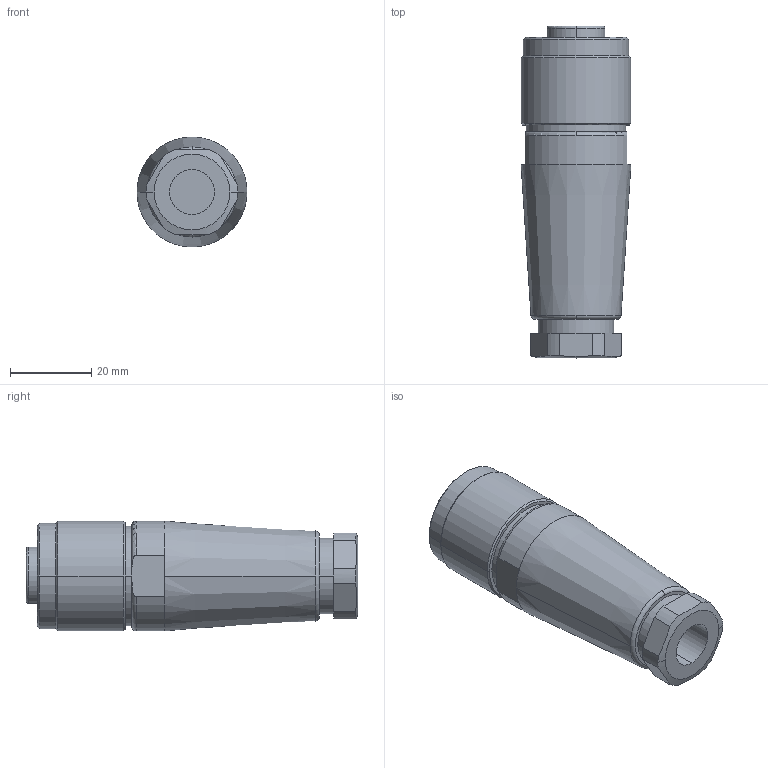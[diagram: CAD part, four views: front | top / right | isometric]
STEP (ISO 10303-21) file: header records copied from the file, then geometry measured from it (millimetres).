
FILE_DESCRIPTION(('OneSpaceDesigner STEP Export'),'2;1');
FILE_NAME('RKC30_11_HUELLMODELL_-_BEL_3D_MODELLE.stp','2009-05-14T 9:00:09',(''),(''),'OneSpace Designer STEP processor for AP214 (Solid Model)','OneSpace Designer 13.20A 18-Aug-2005 (C) CoCreate Software GmbH','');
FILE_SCHEMA(('AUTOMOTIVE_DESIGN { 1 0 10303 214 1 1 1 1 }'));
Length unit declared in the file: millimetre
Products named in the file (2): RKC30-11_0521A01
Assembly tree (1 placements, depth 2):
  RKC30-11_0521A01
    RKC30-11_0521A01
Bounding box: 27 x 81.5 x 27 mm (x, y, z)
Volume: 36884.9 mm3; surface area: 9036.6 mm2
Topology: 1 solids, 1 shells, 88 faces, 195 edges, 123 vertices
Faces by surface type: cylinder 41, plane 29, cone 10, torus 8
Entity records: 3662 total; most frequent: CARTESIAN_POINT 1263, ORIENTED_EDGE 390, DIRECTION 320, EDGE_CURVE 195, VERTEX_POINT 123, AXIS2_PLACEMENT_3D 122, EDGE_LOOP 102, FACE_OUTER_BOUND 88
